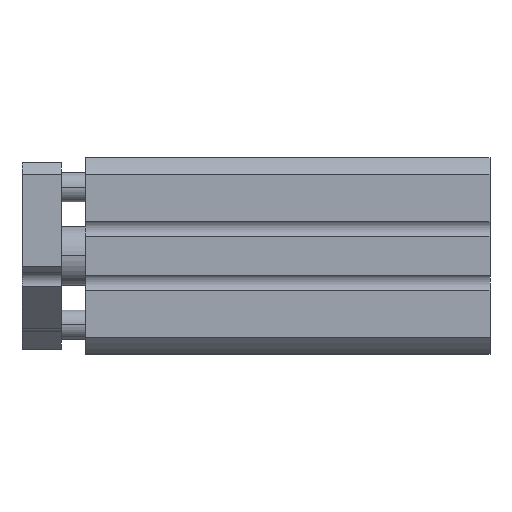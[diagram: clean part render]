
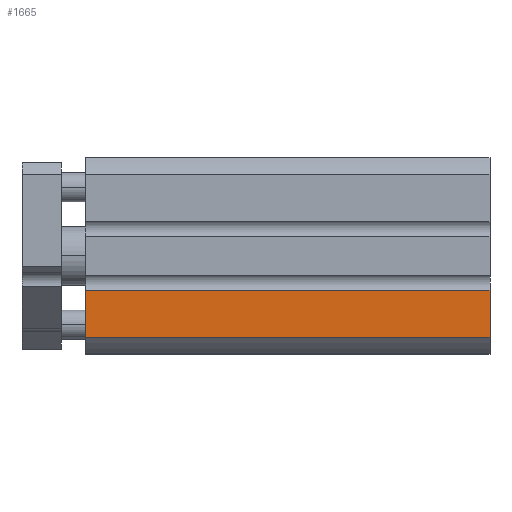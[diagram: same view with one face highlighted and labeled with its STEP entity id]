
A CAD part, top view. The second image highlights one B-rep face of the part: STEP entity #1665.
In plain terms, the highlighted planar face has unit normal (0, 0, 1).
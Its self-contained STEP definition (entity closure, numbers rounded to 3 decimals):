
#95 = LINE ( 'NONE', #3481, #2784 ) ;
#207 = ORIENTED_EDGE ( 'NONE', *, *, #575, .F. ) ;
#334 = ORIENTED_EDGE ( 'NONE', *, *, #2569, .T. ) ;
#460 = AXIS2_PLACEMENT_3D ( 'NONE', #864, #3118, #3038 ) ;
#533 = VECTOR ( 'NONE', #1452, 1000. ) ;
#575 = EDGE_CURVE ( 'NONE', #3524, #1755, #95, .T. ) ;
#593 = DIRECTION ( 'NONE',  ( -1., 0., 0. ) ) ;
#759 = VECTOR ( 'NONE', #593, 1000. ) ;
#838 = PLANE ( 'NONE',  #460 ) ;
#864 = CARTESIAN_POINT ( 'NONE',  ( 82.5, -7., 20. ) ) ;
#1289 = LINE ( 'NONE', #4680, #759 ) ;
#1327 = EDGE_CURVE ( 'NONE', #3524, #2273, #1289, .T. ) ;
#1404 = CARTESIAN_POINT ( 'NONE',  ( 0., -7., 20. ) ) ;
#1422 = ORIENTED_EDGE ( 'NONE', *, *, #1327, .T. ) ;
#1452 = DIRECTION ( 'NONE',  ( 0., -1., 0. ) ) ;
#1531 = FACE_OUTER_BOUND ( 'NONE', #3767, .T. ) ;
#1594 = DIRECTION ( 'NONE',  ( 0., -1., 0. ) ) ;
#1665 = ADVANCED_FACE ( 'NONE', ( #1531 ), #838, .F. ) ;
#1755 = VERTEX_POINT ( 'NONE', #2841 ) ;
#2066 = DIRECTION ( 'NONE',  ( -1., 0., 0. ) ) ;
#2202 = CARTESIAN_POINT ( 'NONE',  ( 82.5, -16.613, 20. ) ) ;
#2220 = LINE ( 'NONE', #1404, #533 ) ;
#2273 = VERTEX_POINT ( 'NONE', #3760 ) ;
#2569 = EDGE_CURVE ( 'NONE', #2273, #2851, #2220, .T. ) ;
#2685 = ORIENTED_EDGE ( 'NONE', *, *, #4382, .F. ) ;
#2770 = CARTESIAN_POINT ( 'NONE',  ( 82.5, -7., 20. ) ) ;
#2784 = VECTOR ( 'NONE', #1594, 1000. ) ;
#2841 = CARTESIAN_POINT ( 'NONE',  ( 82.5, -16.613, 20. ) ) ;
#2851 = VERTEX_POINT ( 'NONE', #4407 ) ;
#3038 = DIRECTION ( 'NONE',  ( 0., -1., 0. ) ) ;
#3118 = DIRECTION ( 'NONE',  ( 0., 0., -1. ) ) ;
#3481 = CARTESIAN_POINT ( 'NONE',  ( 82.5, -7., 20. ) ) ;
#3524 = VERTEX_POINT ( 'NONE', #2770 ) ;
#3760 = CARTESIAN_POINT ( 'NONE',  ( 0., -7., 20. ) ) ;
#3767 = EDGE_LOOP ( 'NONE', ( #334, #2685, #207, #1422 ) ) ;
#4382 = EDGE_CURVE ( 'NONE', #1755, #2851, #4663, .T. ) ;
#4407 = CARTESIAN_POINT ( 'NONE',  ( 0., -16.613, 20. ) ) ;
#4452 = VECTOR ( 'NONE', #2066, 1000. ) ;
#4663 = LINE ( 'NONE', #2202, #4452 ) ;
#4680 = CARTESIAN_POINT ( 'NONE',  ( 82.5, -7., 20. ) ) ;
